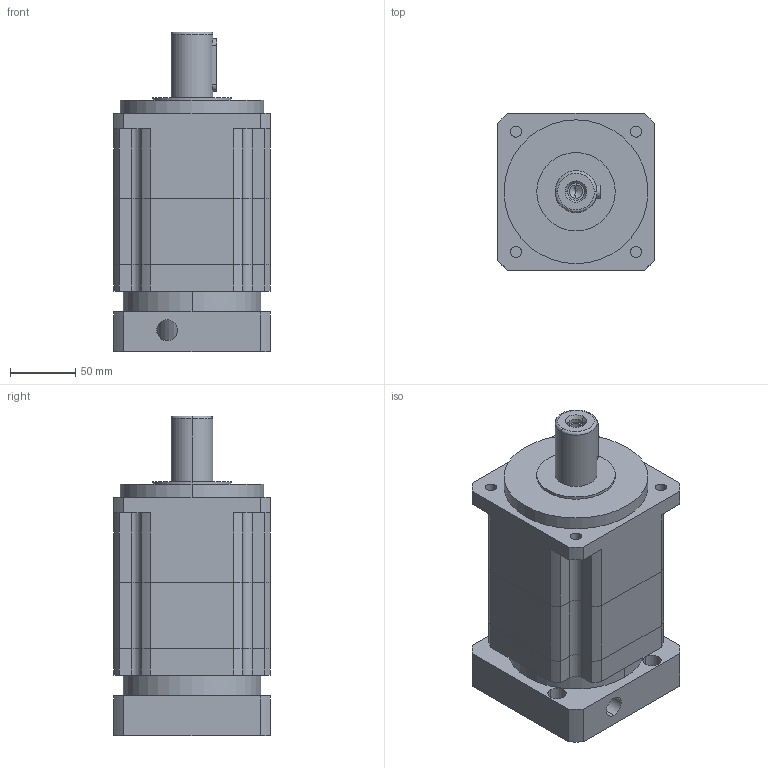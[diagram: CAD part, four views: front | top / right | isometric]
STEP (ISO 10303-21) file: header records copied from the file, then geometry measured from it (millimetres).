
FILE_DESCRIPTION (( 'STEP AP214' ), '1' );
FILE_NAME ('PLG120-L2 19-95-130.STEP', '2022-04-23T05:55:45', ( '' ), ( '' ), 'SwSTEP 2.0', 'SolidWorks 2017', '' );
FILE_SCHEMA (( 'AUTOMOTIVE_DESIGN' ));
Length unit declared in the file: millimetre
Products named in the file (8): PLG120-本体齿圈; 邧埴瑩 10x8x40; PLG120-二级齿圈; PLG120-薊粣ん-19_LZ03; PLG120-蟀諉-19-95-M8-130-LR60; PLG120-L2 19-95-130; 囀鞠褒蹟佪-M8℅25; 粣創-6009 45x75x16
Assembly tree (7 placements, depth 2):
  PLG120-L2 19-95-130
    PLG120-本体齿圈
    PLG120-薊粣ん-19_LZ03
    PLG120-蟀諉-19-95-M8-130-LR60
    囀鞠褒蹟佪-M8℅25
    邧埴瑩 10x8x40
    粣創-6009 45x75x16
    PLG120-二级齿圈
Bounding box: 120 x 120 x 244.5 mm (x, y, z)
Volume: 2247591.8 mm3; surface area: 251225.8 mm2
Topology: 7 solids, 7 shells, 451 faces, 1264 edges, 822 vertices
Faces by surface type: cylinder 164, plane 137, bspline 134, cone 16
Entity records: 25375 total; most frequent: CARTESIAN_POINT 9188, ORIENTED_EDGE 2500, DIRECTION 2044, EDGE_CURVE 1250, AXIS2_PLACEMENT_3D 834, VERTEX_POINT 818, EDGE_LOOP 538, CIRCLE 507
